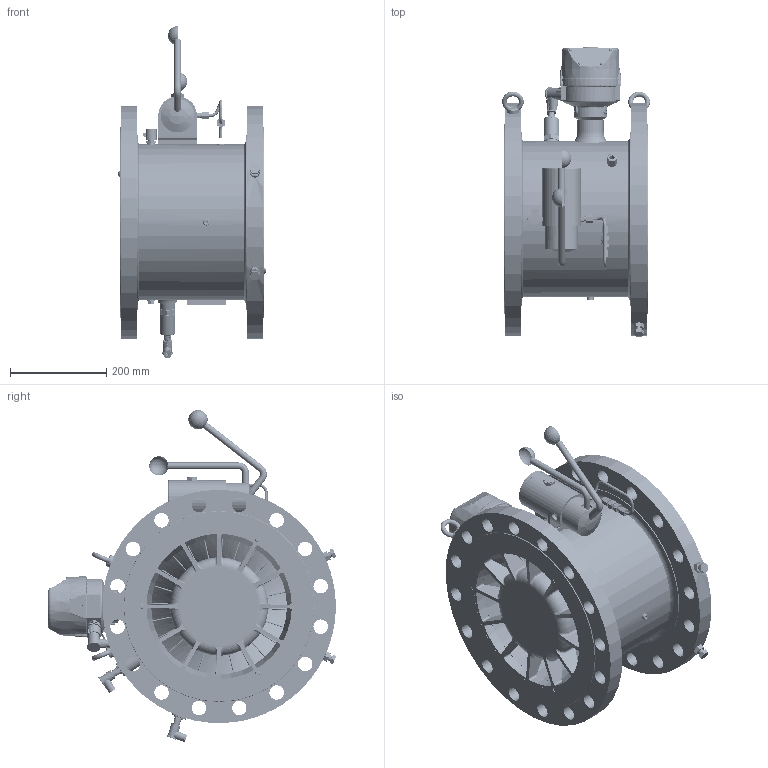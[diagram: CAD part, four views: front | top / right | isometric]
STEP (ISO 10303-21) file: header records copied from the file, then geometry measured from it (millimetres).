
FILE_DESCRIPTION((''),'2;1');
FILE_NAME('063826_1_L_ASM','2024-04-15T11:41:10',('R17382'),(''),'CREO PARAMETRIC BY PTC INC, 2022281','CREO PARAMETRIC BY PTC INC, 2022281','');
FILE_SCHEMA(('AP242_MANAGED_MODEL_BASED_3D_ENGINEERING_MIM_LF { 1 0 10303 442 1 1 4 }'));
Products named in the file (136): 063688_1_ROHR_ROH_AF0; RST37-2_10038; 063688_1_FLANSCH_ROH_AF1; 063688_1_FLANSCH_ROH_AF0; 063688_1_STUTZENNAHT_ZAHLWERK_AF0; PTC_SYSTEM_MTRL_PROPS; 062903_4_V01_AF0; 063688_1_RUNDNAHT_1_AF0; 063688_1_RUNDNAHT_2_AF0; 063674_4_AF0; 063674_4_AF1; 055154_4; 933M12X35; 934M12; 14301_X5CRNI1810; 063688_1_STUTZENNAHT_HF3_2_AF0; 063688_1_STUTZENNAHT_HF3_3; 063688_1_FERTIG_ASM; 046642_1_AF0; ALU; 047460_3; 046569_2; 047458_1_AF1_ASM; 062953_4; O-RING_52X2_5; GEHAEUSE_TRZ03_ZWF_PED-2012; 054578_2; AL_ALUMINIUM; 965M3X6; STECKER_WINKEL_ZWF_PED-2012; STECKVERBINDER_ZWF_PED-2012; AM3X10_DIN404_ZWF_PED-2012; 84M3X8; STECKER_FA_BINDER_ZWF_PED-2012_ASM; LASCHE_ZWF_PED-2012; KERBNAGEL_ZWF_PED-2012; PLEXIGLASSCHEIBE_ZWF_PED-2012; SCHILD_SCHRAEG_ZWF_PED-2012; 551M6X10; BAUGRUPPE_ZWF_PED-2012_VEREINF_ASM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
Assembly tree (96 placements, depth 5):
  RST37-2_10038
  RST37-2_10038
  RST37-2_10038
  PTC_SYSTEM_MTRL_PROPS
  RST37-2_10038
Bounding box: 306.97 x 600.03 x 689.36 mm (x, y, z)
Volume: 15123350.9 mm3; surface area: 3018879.6 mm2
Topology: 89 solids, 141 shells, 4171 faces, 10453 edges, 6568 vertices
Faces by surface type: plane 1529, cylinder 1359, cone 457, bspline 421, torus 255, extrusion 106, sphere 44
Entity records: 195554 total; most frequent: CARTESIAN_POINT 64300, DIRECTION 17501, ORIENTED_EDGE 16448, EDGE_CURVE 8311, AXIS2_PLACEMENT_3D 6776, PROPERTY_DEFINITION 6243, REPRESENTATION 6110, PROPERTY_DEFINITION_REPRESENTATION 6110
